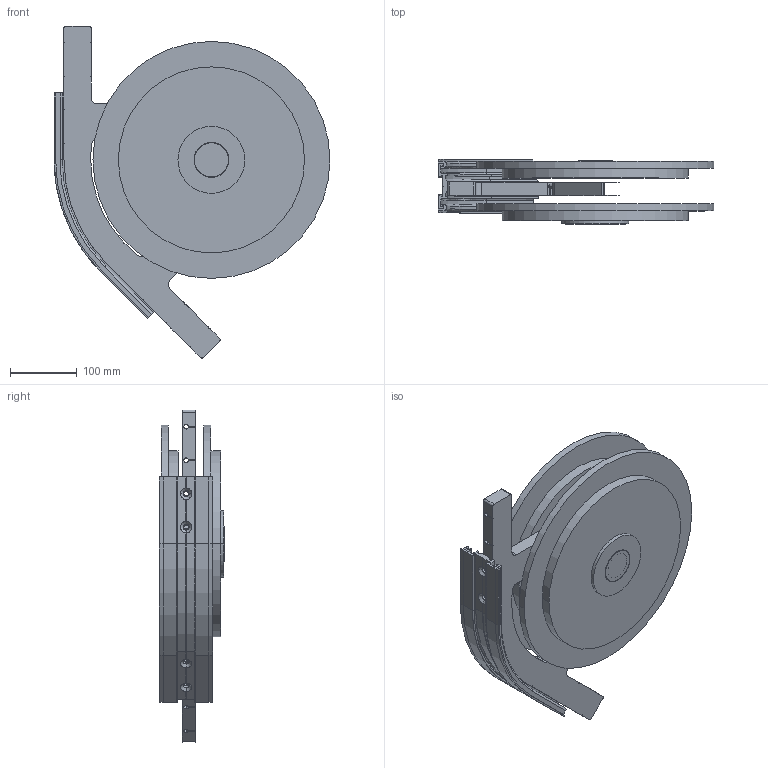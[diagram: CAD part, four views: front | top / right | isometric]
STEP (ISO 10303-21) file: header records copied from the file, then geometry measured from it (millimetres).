
FILE_DESCRIPTION (( 'STEP AP203' ), '1' );
FILE_NAME ('R1C200-45.STEP', '2008-11-24T14:37:26', ( 'faber' ), ( '' ), 'SwSTEP 2.0', 'SolidWorks 2008', '' );
FILE_SCHEMA (( 'CONFIG_CONTROL_DESIGN' ));
Length unit declared in the file: millimetre
Products named in the file (1): R1C200-45
Bounding box: 412 x 97.4 x 495.91 mm (x, y, z)
Surface area: 659318.2 mm2 (no closed solid volume)
Topology: 0 solids, 140 shells, 568 faces, 2252 edges, 1804 vertices
Faces by surface type: plane 378, bspline 93, cylinder 83, cone 14
Entity records: 28118 total; most frequent: CARTESIAN_POINT 12160, ORIENTED_EDGE 3048, DIRECTION 2554, EDGE_CURVE 2252, VERTEX_POINT 1804, VECTOR 962, LINE 962, B_SPLINE_CURVE_WITH_KNOTS 831
